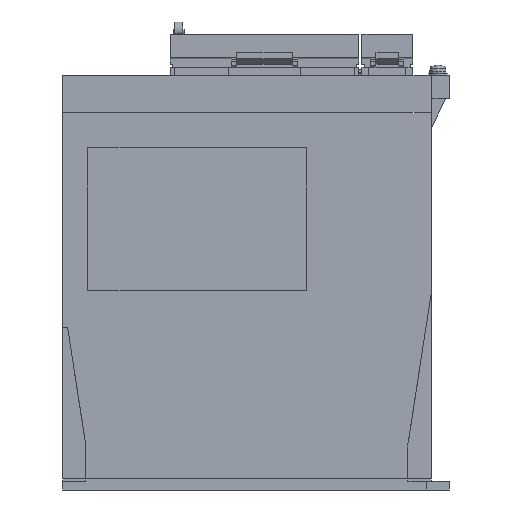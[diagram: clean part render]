
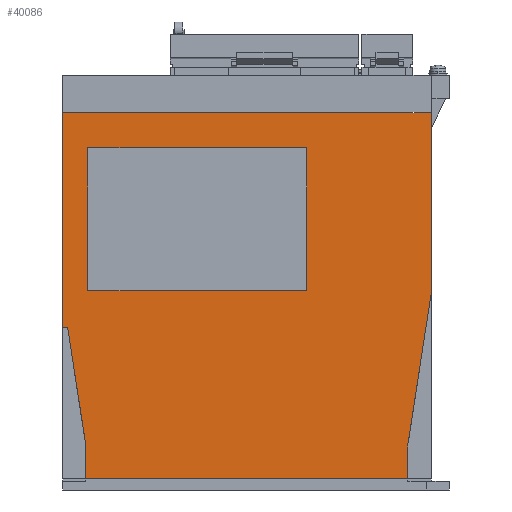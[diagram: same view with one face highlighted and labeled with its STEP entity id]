
A CAD part, left-side view. The second image highlights one B-rep face of the part: STEP entity #40086.
In plain terms, the highlighted planar face has unit normal (-1, 0, 0).
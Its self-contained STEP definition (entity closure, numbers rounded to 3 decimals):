
#526=DIRECTION('',(0.,0.,1.));
#527=VECTOR('',#526,78.9);
#528=CARTESIAN_POINT('',(0.,0.,85.));
#529=LINE('',#528,#527);
#11220=DIRECTION('',(0.,1.,0.));
#11221=VECTOR('',#11220,140.);
#11222=CARTESIAN_POINT('',(0.,10.,4.9));
#11223=LINE('',#11222,#11221);
#11224=DIRECTION('',(0.,0.152,0.988));
#11225=VECTOR('',#11224,51.296);
#11226=CARTESIAN_POINT('',(0.,150.,20.));
#11227=LINE('',#11226,#11225);
#11228=DIRECTION('',(0.,1.,0.));
#11229=VECTOR('',#11228,2.2);
#11230=CARTESIAN_POINT('',(0.,157.8,70.7));
#11231=LINE('',#11230,#11229);
#11232=DIRECTION('',(0.,-1.,0.));
#11233=VECTOR('',#11232,160.);
#11234=CARTESIAN_POINT('',(0.,160.,163.9));
#11235=LINE('',#11234,#11233);
#11236=DIRECTION('',(0.,0.152,-0.988));
#11237=VECTOR('',#11236,65.765);
#11238=CARTESIAN_POINT('',(0.,0.,85.));
#11239=LINE('',#11238,#11237);
#11240=DIRECTION('',(0.,0.,-1.));
#11241=VECTOR('',#11240,15.1);
#11242=CARTESIAN_POINT('',(0.,10.,20.));
#11243=LINE('',#11242,#11241);
#11244=DIRECTION('',(0.,-1.,0.));
#11245=VECTOR('',#11244,95.);
#11246=CARTESIAN_POINT('',(0.,149.,86.6));
#11247=LINE('',#11246,#11245);
#11260=DIRECTION('',(0.,0.,-1.));
#11261=VECTOR('',#11260,15.1);
#11262=CARTESIAN_POINT('',(0.,150.,20.));
#11263=LINE('',#11262,#11261);
#11280=DIRECTION('',(0.,0.,-1.));
#11281=VECTOR('',#11280,93.2);
#11282=CARTESIAN_POINT('',(0.,160.,163.9));
#11283=LINE('',#11282,#11281);
#11648=DIRECTION('',(0.,0.,1.));
#11649=VECTOR('',#11648,62.);
#11650=CARTESIAN_POINT('',(0.,149.,86.6));
#11651=LINE('',#11650,#11649);
#11656=DIRECTION('',(0.,-1.,0.));
#11657=VECTOR('',#11656,95.);
#11658=CARTESIAN_POINT('',(0.,149.,148.6));
#11659=LINE('',#11658,#11657);
#11664=DIRECTION('',(0.,0.,-1.));
#11665=VECTOR('',#11664,62.);
#11666=CARTESIAN_POINT('',(0.,54.,148.6));
#11667=LINE('',#11666,#11665);
#12612=CARTESIAN_POINT('',(0.,0.,85.));
#12613=VERTEX_POINT('',#12612);
#12614=CARTESIAN_POINT('',(0.,0.,163.9));
#12615=VERTEX_POINT('',#12614);
#12678=CARTESIAN_POINT('',(0.,150.,4.9));
#12679=VERTEX_POINT('',#12678);
#12680=CARTESIAN_POINT('',(0.,10.,4.9));
#12681=VERTEX_POINT('',#12680);
#12722=CARTESIAN_POINT('',(0.,160.,163.9));
#12723=VERTEX_POINT('',#12722);
#16026=CARTESIAN_POINT('',(0.,150.,20.));
#16027=VERTEX_POINT('',#16026);
#16028=CARTESIAN_POINT('',(0.,157.8,70.7));
#16029=VERTEX_POINT('',#16028);
#16030=CARTESIAN_POINT('',(0.,160.,70.7));
#16031=VERTEX_POINT('',#16030);
#16032=CARTESIAN_POINT('',(0.,10.,20.));
#16033=VERTEX_POINT('',#16032);
#16034=CARTESIAN_POINT('',(0.,149.,86.6));
#16035=CARTESIAN_POINT('',(0.,54.,86.6));
#16036=VERTEX_POINT('',#16034);
#16037=VERTEX_POINT('',#16035);
#16038=CARTESIAN_POINT('',(0.,54.,148.6));
#16039=VERTEX_POINT('',#16038);
#16040=CARTESIAN_POINT('',(0.,149.,148.6));
#16041=VERTEX_POINT('',#16040);
#40054=CARTESIAN_POINT('',(0.,160.,0.));
#40055=DIRECTION('',(-1.,0.,0.));
#40056=DIRECTION('',(0.,-1.,0.));
#40057=AXIS2_PLACEMENT_3D('',#40054,#40055,#40056);
#40058=PLANE('',#40057);
#40059=ORIENTED_EDGE('',*,*,#17037,.T.);
#40061=ORIENTED_EDGE('',*,*,#40060,.F.);
#40063=ORIENTED_EDGE('',*,*,#40062,.T.);
#40065=ORIENTED_EDGE('',*,*,#40064,.T.);
#40067=ORIENTED_EDGE('',*,*,#40066,.F.);
#40068=ORIENTED_EDGE('',*,*,#17169,.T.);
#40069=ORIENTED_EDGE('',*,*,#16951,.F.);
#40071=ORIENTED_EDGE('',*,*,#40070,.T.);
#40073=ORIENTED_EDGE('',*,*,#40072,.T.);
#40074=EDGE_LOOP('',(#40059,#40061,#40063,#40065,#40067,#40068,#40069,#40071,
#40073));
#40075=FACE_OUTER_BOUND('',#40074,.F.);
#40077=ORIENTED_EDGE('',*,*,#40076,.T.);
#40079=ORIENTED_EDGE('',*,*,#40078,.F.);
#40081=ORIENTED_EDGE('',*,*,#40080,.F.);
#40083=ORIENTED_EDGE('',*,*,#40082,.F.);
#40084=EDGE_LOOP('',(#40077,#40079,#40081,#40083));
#40085=FACE_BOUND('',#40084,.F.);
#16951=EDGE_CURVE('',#12613,#12615,#529,.T.);
#17037=EDGE_CURVE('',#12681,#12679,#11223,.T.);
#17169=EDGE_CURVE('',#12723,#12615,#11235,.T.);
#40060=EDGE_CURVE('',#16027,#12679,#11263,.T.);
#40062=EDGE_CURVE('',#16027,#16029,#11227,.T.);
#40064=EDGE_CURVE('',#16029,#16031,#11231,.T.);
#40066=EDGE_CURVE('',#12723,#16031,#11283,.T.);
#40070=EDGE_CURVE('',#12613,#16033,#11239,.T.);
#40072=EDGE_CURVE('',#16033,#12681,#11243,.T.);
#40076=EDGE_CURVE('',#16036,#16037,#11247,.T.);
#40078=EDGE_CURVE('',#16039,#16037,#11667,.T.);
#40080=EDGE_CURVE('',#16041,#16039,#11659,.T.);
#40082=EDGE_CURVE('',#16036,#16041,#11651,.T.);
#40086=ADVANCED_FACE('',(#40075,#40085),#40058,.T.);
